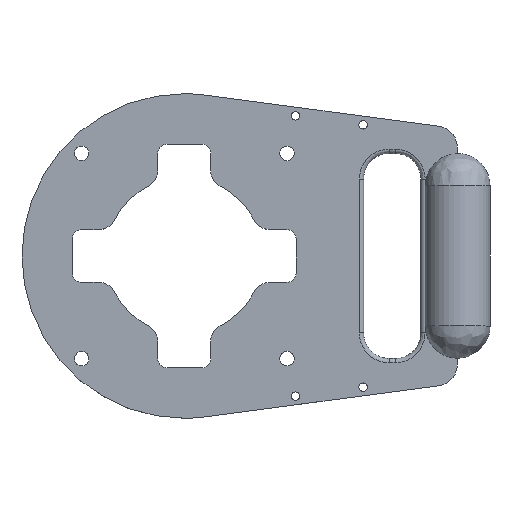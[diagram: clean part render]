
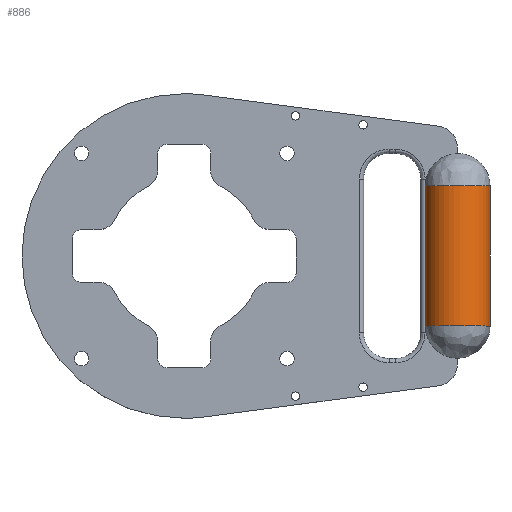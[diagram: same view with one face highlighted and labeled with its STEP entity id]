
A CAD part, top view. The second image highlights one B-rep face of the part: STEP entity #886.
In plain terms, the highlighted cylindrical face has radius 19 mm (diameter 38 mm), a partial arc.
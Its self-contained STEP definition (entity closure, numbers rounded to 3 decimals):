
#3 = DIRECTION ( 'NONE',  ( 1., 0., 0. ) ) ;
#5 = CARTESIAN_POINT ( 'NONE',  ( 160., -41., 2.5 ) ) ;
#148 = CARTESIAN_POINT ( 'NONE',  ( 179., 60., 2.5 ) ) ;
#207 = CIRCLE ( 'NONE', #2841, 19. ) ;
#212 = CARTESIAN_POINT ( 'NONE',  ( 141.165, -41., 5. ) ) ;
#215 = EDGE_LOOP ( 'NONE', ( #612, #2910, #930, #2573 ) ) ;
#221 = CARTESIAN_POINT ( 'NONE',  ( 141.165, 60., 5. ) ) ;
#314 = EDGE_CURVE ( 'NONE', #625, #835, #2749, .T. ) ;
#332 = VERTEX_POINT ( 'NONE', #934 ) ;
#415 = DIRECTION ( 'NONE',  ( 0., -1., 0. ) ) ;
#459 = DIRECTION ( 'NONE',  ( 0., 1., 0. ) ) ;
#523 = EDGE_CURVE ( 'NONE', #1570, #332, #207, .T. ) ;
#612 = ORIENTED_EDGE ( 'NONE', *, *, #1748, .F. ) ;
#625 = VERTEX_POINT ( 'NONE', #212 ) ;
#690 = DIRECTION ( 'NONE',  ( 0., -1., 0. ) ) ;
#785 = CARTESIAN_POINT ( 'NONE',  ( 179., 41., 2.5 ) ) ;
#835 = VERTEX_POINT ( 'NONE', #2827 ) ;
#886 = ADVANCED_FACE ( 'NONE', ( #2049 ), #2458, .T. ) ;
#930 = ORIENTED_EDGE ( 'NONE', *, *, #1985, .T. ) ;
#934 = CARTESIAN_POINT ( 'NONE',  ( 141.165, 41., 5. ) ) ;
#964 = AXIS2_PLACEMENT_3D ( 'NONE', #1989, #1580, #3 ) ;
#1479 = AXIS2_PLACEMENT_3D ( 'NONE', #5, #459, #2495 ) ;
#1570 = VERTEX_POINT ( 'NONE', #785 ) ;
#1580 = DIRECTION ( 'NONE',  ( 0., -1., 0. ) ) ;
#1748 = EDGE_CURVE ( 'NONE', #1570, #835, #2371, .T. ) ;
#1985 = EDGE_CURVE ( 'NONE', #332, #625, #2713, .T. ) ;
#1989 = CARTESIAN_POINT ( 'NONE',  ( 160., 60., 2.5 ) ) ;
#2049 = FACE_OUTER_BOUND ( 'NONE', #215, .T. ) ;
#2371 = LINE ( 'NONE', #148, #2610 ) ;
#2458 = CYLINDRICAL_SURFACE ( 'NONE', #964, 19. ) ;
#2495 = DIRECTION ( 'NONE',  ( 1., 0., 0. ) ) ;
#2511 = DIRECTION ( 'NONE',  ( 1., 0., 0. ) ) ;
#2573 = ORIENTED_EDGE ( 'NONE', *, *, #314, .T. ) ;
#2610 = VECTOR ( 'NONE', #415, 1000. ) ;
#2713 = LINE ( 'NONE', #221, #2748 ) ;
#2731 = DIRECTION ( 'NONE',  ( 0., -1., 0. ) ) ;
#2748 = VECTOR ( 'NONE', #690, 1000. ) ;
#2749 = CIRCLE ( 'NONE', #1479, 19. ) ;
#2827 = CARTESIAN_POINT ( 'NONE',  ( 179., -41., 2.5 ) ) ;
#2841 = AXIS2_PLACEMENT_3D ( 'NONE', #2909, #2731, #2511 ) ;
#2909 = CARTESIAN_POINT ( 'NONE',  ( 160., 41., 2.5 ) ) ;
#2910 = ORIENTED_EDGE ( 'NONE', *, *, #523, .T. ) ;
